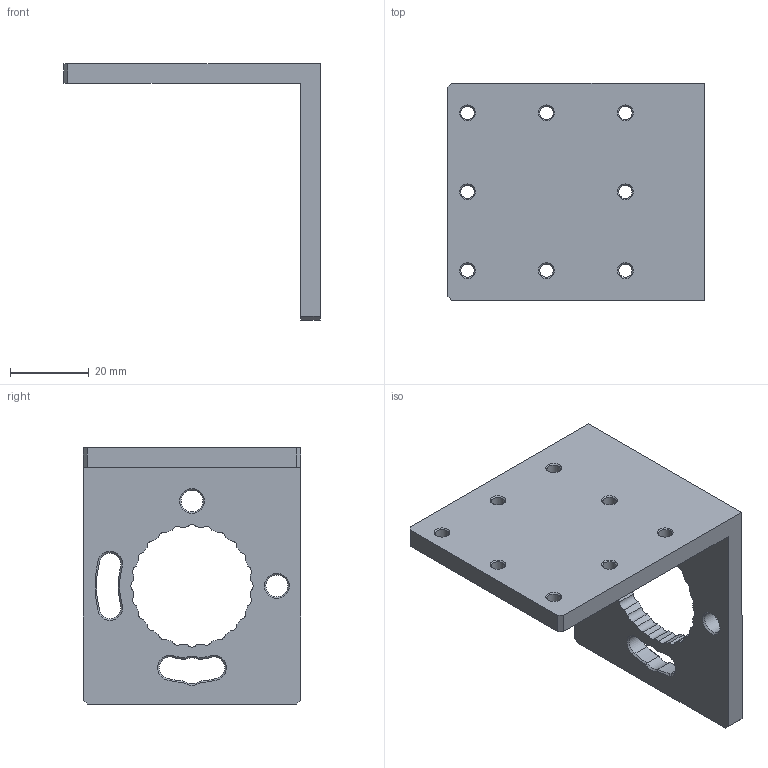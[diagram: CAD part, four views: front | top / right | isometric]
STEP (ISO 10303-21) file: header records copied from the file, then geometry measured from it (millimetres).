
FILE_DESCRIPTION(/* description */ ('Unknown'),/* implementation_level */ '2;1');
FILE_NAME(/* name */ 'Mountingbracket_11720397',/* time_stamp */ '2023-03-03T07:24:19+01:00',/* author */ ('Unknown'),/* organization */ ('Baumer'),/* preprocessor_version */ 'ST-DEVELOPER v16.7',/* originating_system */ 'Solid Edge',/* authorisation */ 'Unknown');
FILE_SCHEMA (('AUTOMOTIVE_DESIGN {1 0 10303 214 3 1 1}'));
Length unit declared in the file: millimetre
Products named in the file (1): Mountingbracket_11720397
Bounding box: 65 x 55 x 65 mm (x, y, z)
Volume: 29235.8 mm3; surface area: 14923.7 mm2
Topology: 1 solids, 1 shells, 126 faces, 340 edges, 216 vertices
Faces by surface type: cylinder 70, cone 44, plane 12
Full cylindrical faces by diameter (mm): 3.4 x8, 5.5 x2
Entity records: 3844 total; most frequent: DIRECTION 744, CARTESIAN_POINT 629, ORIENTED_EDGE 596, AXIS2_PLACEMENT_3D 319, EDGE_CURVE 298, VERTEX_POINT 204, CIRCLE 192, EDGE_LOOP 182
